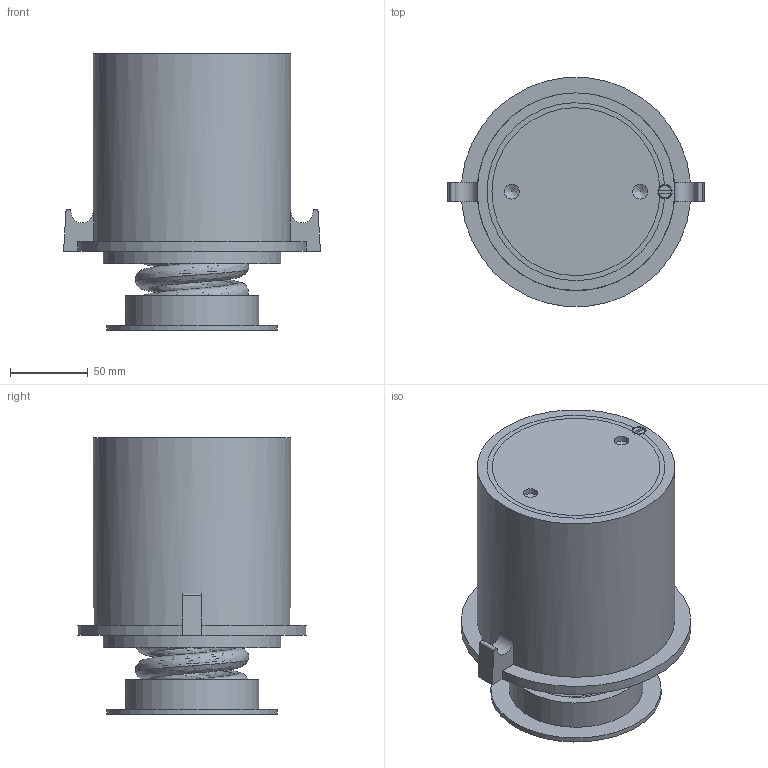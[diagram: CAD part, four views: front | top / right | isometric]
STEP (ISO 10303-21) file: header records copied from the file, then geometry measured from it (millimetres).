
FILE_DESCRIPTION(/* description */ (''),/* implementation_level */ '2;1');
FILE_NAME(/* name */ '\\Mleuckthor2\cad-proe_solids\WEBSITE FILES 05.22.13\STEP\FS\FSC-5 with 2inch Air Gap.stp',/* time_stamp */ '2016-03-10T11:15:15-05:00',/* author */ ('rramoutar'),/* organization */ ('Mason Industries Inc.'),/* preprocessor_version */ 'ST-DEVELOPER v15.6',/* originating_system */ 'Autodesk Inventor 2015',/* authorisation */ '');
FILE_SCHEMA (('AUTOMOTIVE_DESIGN { 1 0 10303 214 3 1 1 }'));
Length unit declared in the file: inch
Products named in the file (1): FS5-C-2935_2IN AIR GAP
Bounding box: 165.1 x 147.07 x 177.8 mm (x, y, z)
Volume: 1001612.3 mm3; surface area: 334266.5 mm2
Topology: 7 solids, 7 shells, 98 faces, 235 edges, 154 vertices
Faces by surface type: plane 41, cylinder 27, bspline 22, cone 6, sphere 2
Full cylindrical faces by diameter (mm): 9.525 x3, 15.875 x2, 73.025 x1, 76.2 x4, 85.725 x1, 101.6 x1, 107.95 x1, 109.537 x1, 114.3 x1, 127 x1
Entity records: 12491 total; most frequent: CARTESIAN_POINT 10329, ORIENTED_EDGE 414, DIRECTION 372, EDGE_CURVE 207, VERTEX_POINT 147, AXIS2_PLACEMENT_3D 142, EDGE_LOOP 132, FACE_OUTER_BOUND 98
